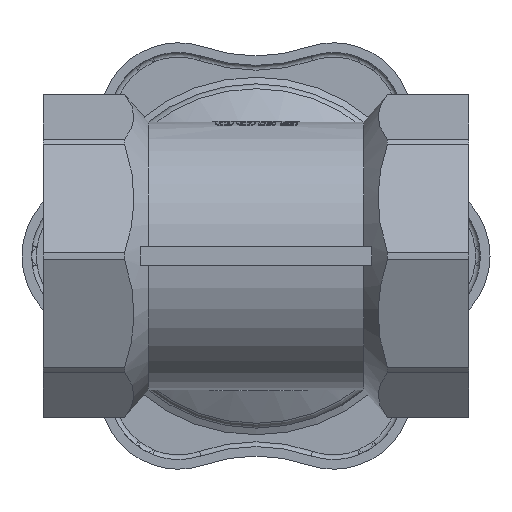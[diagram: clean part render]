
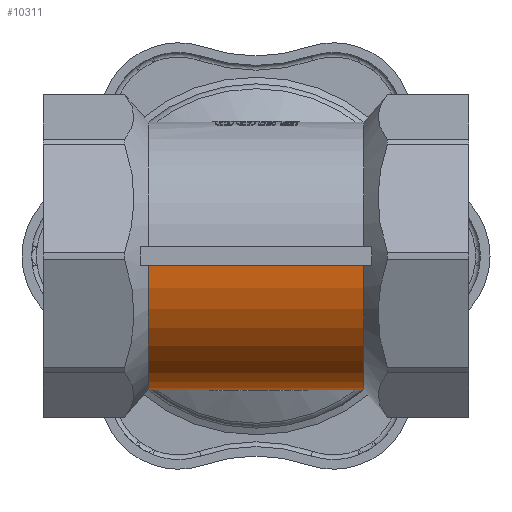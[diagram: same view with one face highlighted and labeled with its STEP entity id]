
A CAD part, front view. The second image highlights one B-rep face of the part: STEP entity #10311.
In plain terms, the highlighted cylindrical face has radius 14 mm (diameter 28 mm), a partial arc.
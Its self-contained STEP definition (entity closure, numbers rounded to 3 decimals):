
#216=ELLIPSE('',#11003,14.481,14.);
#217=ELLIPSE('',#11004,14.481,14.);
#312=B_SPLINE_CURVE_WITH_KNOTS('',3,(#16614,#16615,#16616,#16617,#16618,
#16619,#16620,#16621,#16622,#16623,#16624,#16625,#16626,#16627,#16628,#16629),
 .UNSPECIFIED.,.F.,.F.,(4,2,2,2,2,2,2,4),(4.619,4.634,
4.648,4.678,4.737,4.854,5.09,
5.439),.UNSPECIFIED.);
#313=B_SPLINE_CURVE_WITH_KNOTS('',3,(#16637,#16638,#16639,#16640,#16641,
#16642,#16643,#16644,#16645,#16646,#16647,#16648,#16649,#16650,#16651,#16652),
 .UNSPECIFIED.,.F.,.F.,(4,2,2,2,2,2,2,4),(0.72,1.069,
1.304,1.422,1.481,1.51,1.525,
1.54),.UNSPECIFIED.);
#716=LINE('',#16194,#1380);
#728=LINE('',#16631,#1392);
#729=LINE('',#16633,#1393);
#730=LINE('',#16635,#1394);
#1380=VECTOR('',#12137,10.);
#1392=VECTOR('',#12205,10.);
#1393=VECTOR('',#12206,10.);
#1394=VECTOR('',#12207,10.);
#2024=CYLINDRICAL_SURFACE('',#11002,14.);
#2271=FACE_OUTER_BOUND('',#2882,.T.);
#2882=EDGE_LOOP('',(#7049,#7050,#7051,#7052,#7053,#7054,#7055,#7056,#7057,
#7058));
#3549=CIRCLE('',#10985,14.);
#3562=CIRCLE('',#11005,14.);
#4139=VERTEX_POINT('',#16186);
#4140=VERTEX_POINT('',#16190);
#4157=VERTEX_POINT('',#16241);
#4223=VERTEX_POINT('',#16611);
#4224=VERTEX_POINT('',#16613);
#4225=VERTEX_POINT('',#16630);
#4226=VERTEX_POINT('',#16632);
#4227=VERTEX_POINT('',#16634);
#4228=VERTEX_POINT('',#16636);
#4229=VERTEX_POINT('',#16653);
#5264=EDGE_CURVE('',#4139,#4140,#716,.T.);
#5281=EDGE_CURVE('',#4157,#4140,#3549,.T.);
#5350=EDGE_CURVE('',#4223,#4157,#216,.T.);
#5351=EDGE_CURVE('',#4224,#4223,#312,.T.);
#5352=EDGE_CURVE('',#4225,#4224,#728,.T.);
#5353=EDGE_CURVE('',#4226,#4225,#729,.T.);
#5354=EDGE_CURVE('',#4227,#4226,#730,.T.);
#5355=EDGE_CURVE('',#4228,#4227,#313,.T.);
#5356=EDGE_CURVE('',#4229,#4228,#217,.T.);
#5357=EDGE_CURVE('',#4229,#4139,#3562,.T.);
#7049=ORIENTED_EDGE('',*,*,#5264,.T.);
#7050=ORIENTED_EDGE('',*,*,#5281,.F.);
#7051=ORIENTED_EDGE('',*,*,#5350,.F.);
#7052=ORIENTED_EDGE('',*,*,#5351,.F.);
#7053=ORIENTED_EDGE('',*,*,#5352,.F.);
#7054=ORIENTED_EDGE('',*,*,#5353,.F.);
#7055=ORIENTED_EDGE('',*,*,#5354,.F.);
#7056=ORIENTED_EDGE('',*,*,#5355,.F.);
#7057=ORIENTED_EDGE('',*,*,#5356,.F.);
#7058=ORIENTED_EDGE('',*,*,#5357,.T.);
#10311=ADVANCED_FACE('',(#2271),#2024,.T.);
#10985=AXIS2_PLACEMENT_3D('',#16243,#12157,#12158);
#11002=AXIS2_PLACEMENT_3D('',#16610,#12201,#12202);
#11003=AXIS2_PLACEMENT_3D('',#16612,#12203,#12204);
#11004=AXIS2_PLACEMENT_3D('',#16654,#12208,#12209);
#11005=AXIS2_PLACEMENT_3D('',#16655,#12210,#12211);
#12137=DIRECTION('',(-1.,0.,0.));
#12157=DIRECTION('center_axis',(-1.,0.,0.));
#12158=DIRECTION('ref_axis',(0.,0.,1.));
#12201=DIRECTION('center_axis',(-1.,0.,0.));
#12202=DIRECTION('ref_axis',(0.,-1.,0.));
#12203=DIRECTION('center_axis',(0.967,0.,0.256));
#12204=DIRECTION('ref_axis',(-0.256,0.,0.967));
#12205=DIRECTION('',(-1.,0.,0.));
#12206=DIRECTION('',(-1.,0.,0.));
#12207=DIRECTION('',(-1.,0.,0.));
#12208=DIRECTION('center_axis',(-0.967,0.,0.256));
#12209=DIRECTION('ref_axis',(0.256,0.,0.967));
#12210=DIRECTION('center_axis',(-1.,0.,0.));
#12211=DIRECTION('ref_axis',(0.,0.,1.));
#16186=CARTESIAN_POINT('',(11.25,-13.964,-1.));
#16190=CARTESIAN_POINT('',(-11.25,-13.964,-1.));
#16194=CARTESIAN_POINT('',(0.,-13.964,-1.));
#16241=CARTESIAN_POINT('',(-11.25,11.779,-7.567));
#16243=CARTESIAN_POINT('Origin',(-11.25,0.,0.));
#16610=CARTESIAN_POINT('Origin',(0.,0.,0.));
#16611=CARTESIAN_POINT('',(-10.074,7.183,-12.017));
#16612=CARTESIAN_POINT('Origin',(-13.25,0.,0.));
#16613=CARTESIAN_POINT('',(-7.329,0.,-14.));
#16614=CARTESIAN_POINT('Ctrl Pts',(-7.329,0.,
-14.));
#16615=CARTESIAN_POINT('Ctrl Pts',(-7.329,0.049,
-14.));
#16616=CARTESIAN_POINT('Ctrl Pts',(-7.339,0.094,
-14.));
#16617=CARTESIAN_POINT('Ctrl Pts',(-7.364,0.179,
-13.999));
#16618=CARTESIAN_POINT('Ctrl Pts',(-7.379,0.221,
-13.998));
#16619=CARTESIAN_POINT('Ctrl Pts',(-7.427,0.344,-13.996));
#16620=CARTESIAN_POINT('Ctrl Pts',(-7.462,0.424,
-13.994));
#16621=CARTESIAN_POINT('Ctrl Pts',(-7.568,0.667,-13.985));
#16622=CARTESIAN_POINT('Ctrl Pts',(-7.643,0.83,-13.976));
#16623=CARTESIAN_POINT('Ctrl Pts',(-7.867,1.326,-13.941));
#16624=CARTESIAN_POINT('Ctrl Pts',(-8.023,1.668,-13.905));
#16625=CARTESIAN_POINT('Ctrl Pts',(-8.485,2.701,-13.755));
#16626=CARTESIAN_POINT('Ctrl Pts',(-8.798,3.419,-13.596));
#16627=CARTESIAN_POINT('Ctrl Pts',(-9.495,5.159,-13.06));
#16628=CARTESIAN_POINT('Ctrl Pts',(-9.862,6.199,-12.605));
#16629=CARTESIAN_POINT('Ctrl Pts',(-10.074,7.183,-12.017));
#16630=CARTESIAN_POINT('',(-7.174,0.,-14.));
#16631=CARTESIAN_POINT('',(0.,0.,-14.));
#16632=CARTESIAN_POINT('',(7.174,0.,-14.));
#16633=CARTESIAN_POINT('',(7.174,0.,-14.));
#16634=CARTESIAN_POINT('',(7.329,0.,-14.));
#16635=CARTESIAN_POINT('',(0.,0.,-14.));
#16636=CARTESIAN_POINT('',(10.074,7.183,-12.017));
#16637=CARTESIAN_POINT('Ctrl Pts',(10.074,7.183,-12.017));
#16638=CARTESIAN_POINT('Ctrl Pts',(9.862,6.199,-12.605));
#16639=CARTESIAN_POINT('Ctrl Pts',(9.495,5.159,-13.06));
#16640=CARTESIAN_POINT('Ctrl Pts',(8.798,3.419,-13.596));
#16641=CARTESIAN_POINT('Ctrl Pts',(8.485,2.701,-13.755));
#16642=CARTESIAN_POINT('Ctrl Pts',(8.023,1.668,-13.905));
#16643=CARTESIAN_POINT('Ctrl Pts',(7.867,1.326,-13.941));
#16644=CARTESIAN_POINT('Ctrl Pts',(7.643,0.83,-13.976));
#16645=CARTESIAN_POINT('Ctrl Pts',(7.568,0.667,-13.985));
#16646=CARTESIAN_POINT('Ctrl Pts',(7.462,0.424,-13.994));
#16647=CARTESIAN_POINT('Ctrl Pts',(7.427,0.344,-13.996));
#16648=CARTESIAN_POINT('Ctrl Pts',(7.379,0.221,-13.998));
#16649=CARTESIAN_POINT('Ctrl Pts',(7.364,0.179,-13.999));
#16650=CARTESIAN_POINT('Ctrl Pts',(7.339,0.094,
-14.));
#16651=CARTESIAN_POINT('Ctrl Pts',(7.329,0.049,
-14.));
#16652=CARTESIAN_POINT('Ctrl Pts',(7.329,0.,
-14.));
#16653=CARTESIAN_POINT('',(11.25,11.779,-7.567));
#16654=CARTESIAN_POINT('Origin',(13.25,0.,0.));
#16655=CARTESIAN_POINT('Origin',(11.25,0.,0.));
